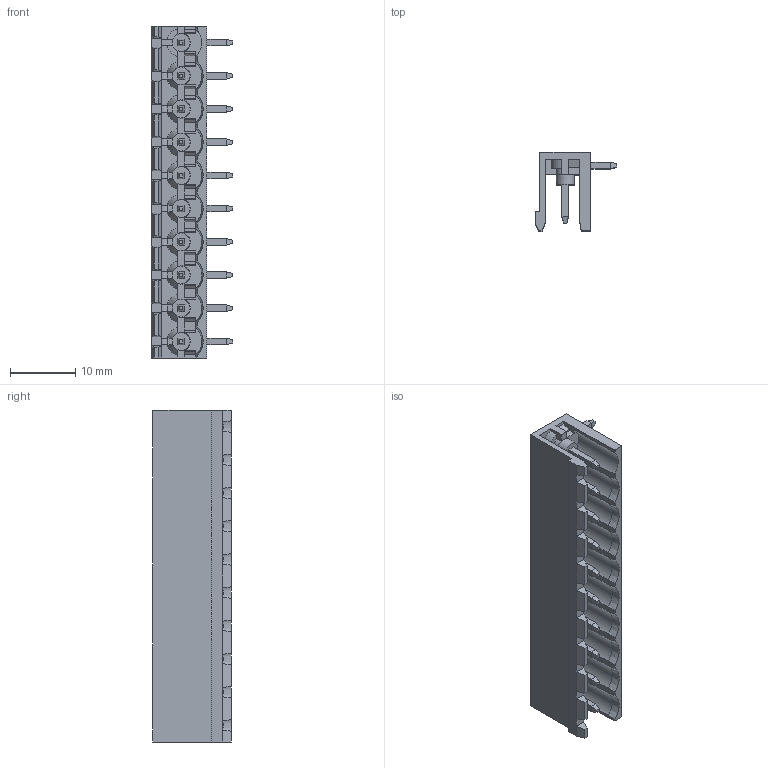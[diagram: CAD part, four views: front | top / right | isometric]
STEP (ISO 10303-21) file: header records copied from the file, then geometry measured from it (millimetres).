
FILE_DESCRIPTION (( 'STEP AP203' ), '1' );
FILE_NAME ('BR8MN1-10.STEP', '2020-03-18T03:19:50', ( '' ), ( '' ), 'SwSTEP 2.0', 'SolidWorks 2019', '' );
FILE_SCHEMA (( 'CONFIG_CONTROL_DESIGN' ));
Length unit declared in the file: millimetre
Products named in the file (1): BR8MN1-10
Bounding box: 12.5 x 12 x 50.8 mm (x, y, z)
Volume: 1941.1 mm3; surface area: 4356.1 mm2
Topology: 1 solids, 1 shells, 849 faces, 2214 edges, 1367 vertices
Faces by surface type: plane 731, cylinder 51, cone 47, sphere 20
Entity records: 25268 total; most frequent: CARTESIAN_POINT 4806, ORIENTED_EDGE 4348, DIRECTION 3981, EDGE_CURVE 2174, VECTOR 1861, LINE 1861, VERTEX_POINT 1347, AXIS2_PLACEMENT_3D 1060
